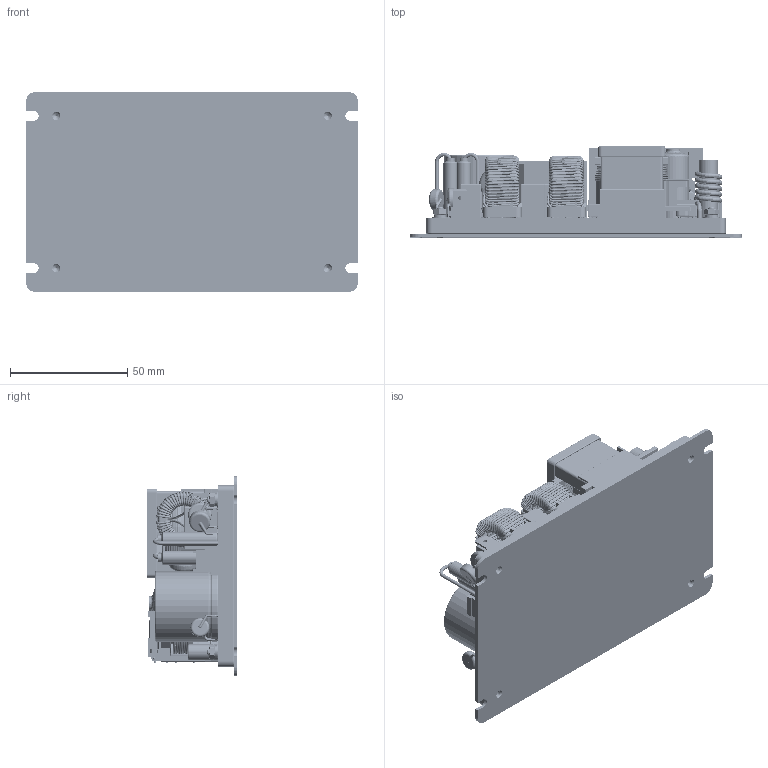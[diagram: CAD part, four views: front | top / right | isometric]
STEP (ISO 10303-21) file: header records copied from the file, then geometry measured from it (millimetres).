
FILE_DESCRIPTION (( 'STEP AP214' ), '1' );
FILE_NAME ('CUS-400M-xxVx-BXy.STEP', '2020-04-16T05:40:14', ( '' ), ( '' ), 'SwSTEP 2.0', 'SolidWorks 2019', '' );
FILE_SCHEMA (( 'AUTOMOTIVE_DESIGN' ));
Length unit declared in the file: millimetre
Products named in the file (104): 230184 WINDING 2; 250236; EF-16 BOBBIN; A40 input fuse ends; FULL NUT_200499; Cap Insulator 29106; SOP4-long; SO-7 no pin 7; CAPACITORS BOX 15mm PITCH_23344; C0805; 22-04-1021; 20380M; CAPACITORS DIPPED 10mm PITCH_16010; 230342; 230184; 220665; A40 INPUT FUSE; 1999M; FUSE - BOX_200140; 230359; RM12; 27873; 240180; CAPACITORS ELECTROLYTIC 5mm PITCH_60393; 66751; CAPACITORS ELECTROLYTIC 10mm PITCH_61085; R0603; 250237_28421; LSOP4; 240193; SOD323; 200268; 230344; dpak; R0805; 12947_0.1; SOD 123; PRIMARY WINDING 50x0.1redesign; 283717; CAPACITORS DIPPED 10mm PITCH_15084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
Assembly tree (415 placements, depth 5):
  CUS-400M-xxVx-BXy
    220665
      220665SMA
        220665
        C0603  x40
        C0805  x5
        C1206  x32
        1999M  x5
        1598M  x4
        SOD323  x13
        SOT23  x5
        SO-16_Standard
        SO-7
        SO-8  x2
        R0603  x72
        R0805  x32
        R1206
        R2512_Domyslna  x4
        SOT323  x6
        SOP4-long  x2
        SOT-23-5  x4
        R1210  x4
        SOD 123  x2
        SOT223  x2
        dpak  x13
        SSOP4
        60652M
      CAPACITORS DIPPED 10mm PITCH_15084
      CAPACITORS DIPPED 10mm PITCH_16010  x3
      200218
      23578
      283436
        A40 INPUT FUSE
        A40 input fuse ends  x2
        A40 input fuse short wire
        283436
        A40 input fuse sleeve
        A40 Fuse big sleeving 5.5 dia
        A40 Fuse big sleeving end
        A40 Fuse big sleeving end top
      283436
        A40 INPUT FUSE
        A40 input fuse ends  x2
        A40 input fuse short wire
        283436
        A40 input fuse sleeve
        A40 Fuse big sleeving 5.5 dia
        A40 Fuse big sleeving end
        A40 Fuse big sleeving end top
      CAPACITORS BOX 15mm PITCH_23344  x3
      230184
        66751
        1604L
        230184 WINDING 1
        230184 WINDING 2
      230184
        66751
        1604L
        230184 WINDING 1
        230184 WINDING 2
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Bounding box: 141.4 x 38.65 x 85.1 mm (x, y, z)
Volume: 153785.2 mm3; surface area: 192669.4 mm2
Topology: 463 solids, 466 shells, 17945 faces, 43510 edges, 26740 vertices
Faces by surface type: plane 10782, cylinder 3599, bspline 1959, torus 954, sphere 345, cone 306
Entity records: 350182 total; most frequent: CARTESIAN_POINT 131447, ORIENTED_EDGE 38010, DIRECTION 37711, EDGE_CURVE 19011, AXIS2_PLACEMENT_3D 13607, VERTEX_POINT 11579, VECTOR 10497, LINE 10497
